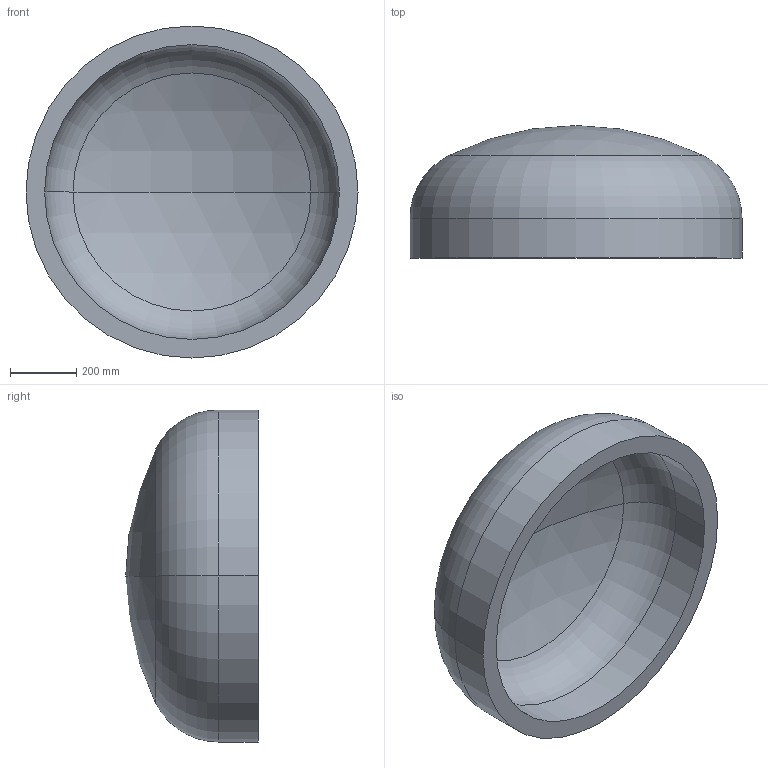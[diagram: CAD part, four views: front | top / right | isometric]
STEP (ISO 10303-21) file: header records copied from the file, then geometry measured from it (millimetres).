
FILE_DESCRIPTION (( 'STEP AP203' ), '1' );
FILE_NAME ('DIN 28013 Korbbogenform_-_Boden DIN 28013 - 1000 x 120 - I - s=56.step', '2016-07-01T08:51:34', ( '' ), ( '' ), 'SwSTEP 2.0', 'SolidWorks 2013', '' );
FILE_SCHEMA (( 'CONFIG_CONTROL_DESIGN' ));
Length unit declared in the file: millimetre
Products named in the file (1): DIN 28013 Korbbogenform_-_Boden DIN 28013 - 1000 x 120 - I - s=56
Bounding box: 1000 x 399.37 x 1000 mm (x, y, z)
Volume: 76710167.4 mm3; surface area: 2912293.4 mm2
Topology: 1 solids, 1 shells, 13 faces, 24 edges, 14 vertices
Faces by surface type: torus 4, cylinder 4, sphere 4, plane 1
Entity records: 407 total; most frequent: DIRECTION 72, CARTESIAN_POINT 52, ORIENTED_EDGE 48, AXIS2_PLACEMENT_3D 34, EDGE_CURVE 24, CIRCLE 20, VERTEX_POINT 14, EDGE_LOOP 14
